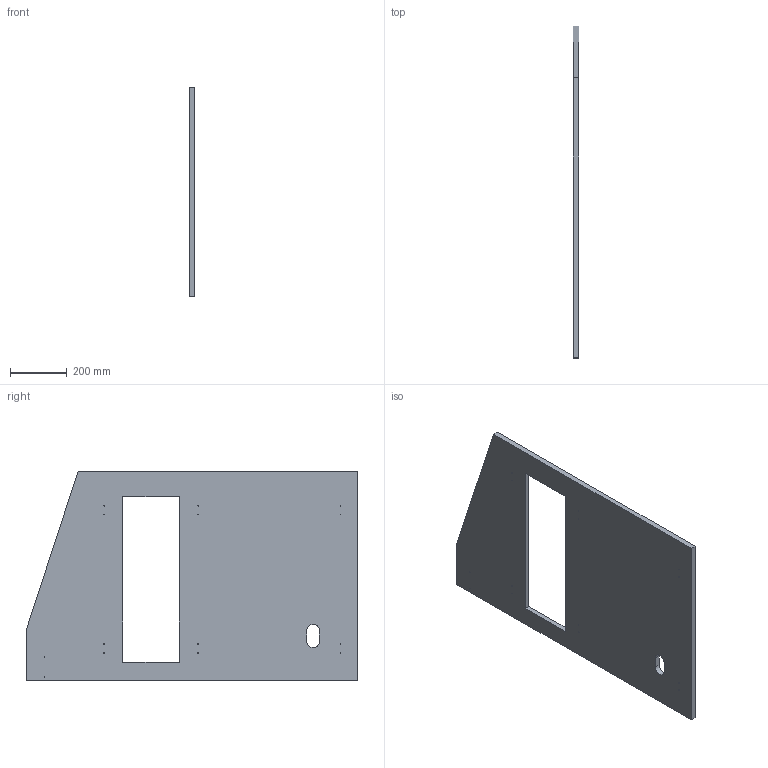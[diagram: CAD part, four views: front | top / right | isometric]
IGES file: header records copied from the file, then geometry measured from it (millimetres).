
Start section:  PTC IGES file: l5f_3343w_side_r.igs
Global section: file name: l5f_3343w_side_r.igs; native system: Creo Parametric by Parametric Technology Corporation; preprocessor: 2014310; author: mkothari; organization: Unknown; date: 20151002.165636; units: inch
Bounding box: 19.05 x 1174.75 x 742.95 mm (x, y, z)
Volume: 13331178 mm3; surface area: 1505243.2 mm2
Topology: 1 solids, 1 shells, 57 faces, 123 edges, 82 vertices
Faces by surface type: bspline 57
